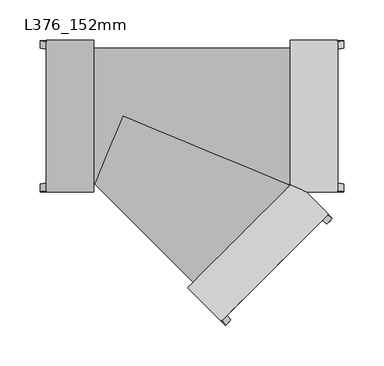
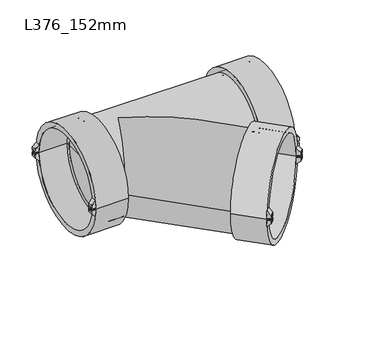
"""IFC4 building model written with IfcOpenShell, lengths in millimetres: pipe fitting geometry, Durapipe_PipeFitting_VulcatheneEnfusion_SingleWye_L37 : L376_152mm."""

from ifc_helpers import new_model, si_unit, point, frame, frame_2d, origin, place, context, project, spatial, polyline, circle_curve, ellipse_curve, trimmed, segment, composite_curve, outline, extrude, source, transform, mapped, element, save
from ifc_brep_helpers import plane_surface, cylinder_surface, revolved_surface, advanced_brep


def l376_152mm_07512c7d(model_context):
    return source(origin(), model_context, "Body", "SolidModel", [
        advanced_brep(
        [(252.2115642, -133.0202102, 3.8160007), (258.7876572, -126.4441172, 3.9121124), (258.5625186, -126.6692557, 9.9669854), (251.9599956, -133.2717788, 9.9669854), (252.9252079, -122.2656502, 17.0269854), (253.7671991, -121.423659, 3.9121124), (247.191106, -127.9997521, 3.8160007), (246.253293, -128.9375651, 17.0269854)],
        [
            (0, 1, circle_curve(frame((255.5130354, -129.718739, 2.0269854), z_axis=(-0.7071067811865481, 0.7071067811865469, 0.0), x_axis=(-0.7071067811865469, -0.7071067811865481, 0.0)), 5.0)),
            (1, 2, circle_curve(frame((192.6158872, -192.6158872, 2.0269854), z_axis=(0.7071067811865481, -0.7071067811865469, 0.0), x_axis=(-0.7071067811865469, -0.7071067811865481, 0.0)), 93.6)),
            (2, 3),
            (3, 0, circle_curve(frame((192.6158872, -192.6158872, 2.0269854), z_axis=(-0.7071067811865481, 0.7071067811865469, 0.0), x_axis=(-0.7071067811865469, -0.7071067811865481, 0.0)), 84.3)),
            (4, 5, circle_curve(frame((187.595429, -187.595429, 2.0269854), z_axis=(-0.7071067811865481, 0.7071067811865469, 0.0), x_axis=(-0.7071067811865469, -0.7071067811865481, 0.0)), 93.6)),
            (5, 6, circle_curve(frame((250.4925772, -124.6982809, 2.0269854), z_axis=(0.7071067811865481, -0.7071067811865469, 0.0), x_axis=(-0.7071067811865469, -0.7071067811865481, 0.0)), 5.0)),
            (6, 7, circle_curve(frame((187.595429, -187.595429, 2.0269854), z_axis=(0.7071067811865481, -0.7071067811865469, 0.0), x_axis=(-0.7071067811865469, -0.7071067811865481, 0.0)), 84.3)),
            (7, 4),
            (6, 0),
            (3, 7, ellipse_curve(frame((198.2621248, -198.2621248, 2.0269854), z_axis=(0.4985855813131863, -0.4985855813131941, 0.7091014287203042), x_axis=(-0.5014104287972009, 0.5014104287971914, 0.7051064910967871)), 119.5564089, 84.3)),
            (4, 2, ellipse_curve(frame((198.2621248, -198.2621248, 2.0269854), z_axis=(-0.4985855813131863, 0.4985855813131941, -0.7091014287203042), x_axis=(0.5014104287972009, -0.5014104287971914, -0.7051064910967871)), 132.745906, 93.6)),
            (1, 5),
        ],
        [
            plane_surface(frame((257.945666, -127.2861084, 17.0269854), z_axis=(0.7071067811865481, -0.7071067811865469, 0.0), x_axis=(-0.7071067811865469, -0.7071067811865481, 0.0))),
            plane_surface(frame((252.9252079, -122.2656502, 17.0269854), z_axis=(-0.7071067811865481, 0.7071067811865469, 0.0), x_axis=(0.7071067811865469, 0.7071067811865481, 0.0))),
            revolved_surface(polyline([(78.70619289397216, -197.92439620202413, 2.0269854), (198.5998533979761, -317.81805670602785, 2.0269854)]), (187.595429, -187.595429, 2.0269854), (-0.7071067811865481, 0.7071067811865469, 0.0)),
            cylinder_surface(frame((187.595429, -187.595429, 2.0269854), z_axis=(0.7071067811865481, -0.7071067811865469, 0.0), x_axis=(-0.7071067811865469, -0.7071067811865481, 0.0)), 93.6),
            revolved_surface(polyline([(251.9775014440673, -133.25427295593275, 2.0269854), (246.95704329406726, -128.23381480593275, 2.0269854)]), (250.4925772, -124.6982809, 2.0269854), (0.7071067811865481, -0.7071067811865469, 0.0)),
            plane_surface(frame((121.4102343, -253.7806238, 17.0269854), z_axis=(0.4985855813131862, -0.49858558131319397, 0.7091014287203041), x_axis=(0.7071067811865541, 0.7071067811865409, 0.0))),
        ],
        [
            (0, [[1, 2, 3, 4]]),
            (1, [[5, 6, 7, 8]]),
            (2, [[-7, 9, -4, 10]]),
            (3, [[-5, 11, -2, 12]]),
            (4, [[-1, -9, -6, -12]]),
            (5, [[-3, -11, -8, -10]]),
        ],
    ),
        advanced_brep(
        [(258.7876572, -126.4441172, 0.1418585), (252.2115642, -133.0202102, 0.2379702), (251.9599956, -133.2717788, -5.9130146), (258.5625186, -126.6692557, -5.9130146), (253.7671991, -121.423659, 0.1418585), (252.9252079, -122.2656502, -12.9730146), (246.253293, -128.9375651, -12.9730146), (247.191106, -127.9997521, 0.2379702)],
        [
            (0, 1, circle_curve(frame((255.5130354, -129.718739, 2.0269854), z_axis=(-0.7071067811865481, 0.7071067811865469, 0.0), x_axis=(-0.7071067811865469, -0.7071067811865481, 0.0)), 5.0)),
            (1, 2, circle_curve(frame((192.6158872, -192.6158872, 2.0269854), z_axis=(-0.7071067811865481, 0.7071067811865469, 0.0), x_axis=(-0.7071067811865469, -0.7071067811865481, 0.0)), 84.3)),
            (2, 3),
            (3, 0, circle_curve(frame((192.6158872, -192.6158872, 2.0269854), z_axis=(0.7071067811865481, -0.7071067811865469, 0.0), x_axis=(-0.7071067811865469, -0.7071067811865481, 0.0)), 93.6)),
            (4, 5, circle_curve(frame((187.595429, -187.595429, 2.0269854), z_axis=(-0.7071067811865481, 0.7071067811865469, 0.0), x_axis=(-0.7071067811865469, -0.7071067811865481, 0.0)), 93.6)),
            (5, 6),
            (6, 7, circle_curve(frame((187.595429, -187.595429, 2.0269854), z_axis=(0.7071067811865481, -0.7071067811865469, 0.0), x_axis=(-0.7071067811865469, -0.7071067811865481, 0.0)), 84.3)),
            (7, 4, circle_curve(frame((250.4925772, -124.6982809, 2.0269854), z_axis=(0.7071067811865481, -0.7071067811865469, 0.0), x_axis=(-0.7071067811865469, -0.7071067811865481, 0.0)), 5.0)),
            (6, 2, ellipse_curve(frame((198.2621248, -198.2621248, 2.0269854), z_axis=(0.49858558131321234, -0.4985855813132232, -0.7091014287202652), x_axis=(-0.5014104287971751, 0.5014104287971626, -0.7051064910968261)), 119.5564089, 84.3)),
            (1, 7),
            (4, 0),
            (3, 5, ellipse_curve(frame((198.2621248, -198.2621248, 2.0269854), z_axis=(-0.49858558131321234, 0.4985855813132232, 0.7091014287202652), x_axis=(0.5014104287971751, -0.5014104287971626, 0.7051064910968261)), 132.745906, 93.6)),
        ],
        [
            plane_surface(frame((257.945666, -127.2861084, 17.0269854), z_axis=(0.7071067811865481, -0.7071067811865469, 0.0), x_axis=(-0.7071067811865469, -0.7071067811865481, 0.0))),
            plane_surface(frame((252.9252079, -122.2656502, 17.0269854), z_axis=(-0.7071067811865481, 0.7071067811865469, 0.0), x_axis=(0.7071067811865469, 0.7071067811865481, 0.0))),
            revolved_surface(polyline([(78.70619289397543, -197.92439620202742, 2.0269854), (198.59985339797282, -317.8180567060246, 2.0269854)]), (187.595429, -187.595429, 2.0269854), (-0.7071067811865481, 0.7071067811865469, 0.0)),
            cylinder_surface(frame((187.595429, -187.595429, 2.0269854), z_axis=(0.7071067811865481, -0.7071067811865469, 0.0), x_axis=(-0.7071067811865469, -0.7071067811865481, 0.0)), 93.6),
            revolved_surface(polyline([(251.9775014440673, -133.25427295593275, 2.0269854), (246.95704329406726, -128.23381480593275, 2.0269854)]), (250.4925772, -124.6982809, 2.0269854), (0.7071067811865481, -0.7071067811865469, 0.0)),
            plane_surface(frame((126.4306925, -258.8010819, -5.9130146), z_axis=(0.49858558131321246, -0.49858558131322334, -0.7091014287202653), x_axis=(0.7071067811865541, 0.7071067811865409, 0.0))),
        ],
        [
            (0, [[1, 2, 3, 4]]),
            (1, [[5, 6, 7, 8]]),
            (2, [[-7, 9, -2, 10]]),
            (3, [[-5, 11, -4, 12]]),
            (4, [[-1, -11, -8, -10]]),
            (5, [[-3, -9, -6, -12]]),
        ],
    ),
        advanced_brep(
        [(126.4441172, -258.7876572, 3.9121124), (133.0202102, -252.2115642, 3.8160007), (133.2717788, -251.9599956, 9.9669854), (126.6692557, -258.5625186, 9.9669854), (121.423659, -253.7671991, 3.9121124), (122.2656502, -252.9252079, 17.0269854), (128.9375651, -246.253293, 17.0269854), (127.9997521, -247.191106, 3.8160007)],
        [
            (0, 1, circle_curve(frame((129.718739, -255.5130354, 2.0269854), z_axis=(-0.7071067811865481, 0.7071067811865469, 0.0), x_axis=(-0.7071067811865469, -0.7071067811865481, 0.0)), 5.0)),
            (1, 2, circle_curve(frame((192.6158872, -192.6158872, 2.0269854), z_axis=(-0.7071067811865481, 0.7071067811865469, 0.0), x_axis=(-0.7071067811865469, -0.7071067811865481, 0.0)), 84.3)),
            (2, 3),
            (3, 0, circle_curve(frame((192.6158872, -192.6158872, 2.0269854), z_axis=(0.7071067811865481, -0.7071067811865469, 0.0), x_axis=(-0.7071067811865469, -0.7071067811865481, 0.0)), 93.6)),
            (4, 5, circle_curve(frame((187.595429, -187.595429, 2.0269854), z_axis=(-0.7071067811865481, 0.7071067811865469, 0.0), x_axis=(-0.7071067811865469, -0.7071067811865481, 0.0)), 93.6)),
            (5, 6),
            (6, 7, circle_curve(frame((187.595429, -187.595429, 2.0269854), z_axis=(0.7071067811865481, -0.7071067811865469, 0.0), x_axis=(-0.7071067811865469, -0.7071067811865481, 0.0)), 84.3)),
            (7, 4, circle_curve(frame((124.6982809, -250.4925772, 2.0269854), z_axis=(0.7071067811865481, -0.7071067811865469, 0.0), x_axis=(-0.7071067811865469, -0.7071067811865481, 0.0)), 5.0)),
            (6, 2, ellipse_curve(frame((198.2621248, -198.2621248, 2.0269854), z_axis=(0.4985855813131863, -0.4985855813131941, 0.7091014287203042), x_axis=(-0.5014104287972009, 0.5014104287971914, 0.7051064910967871)), 119.5564089, 84.3)),
            (1, 7),
            (4, 0),
            (3, 5, ellipse_curve(frame((198.2621248, -198.2621248, 2.0269854), z_axis=(-0.4985855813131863, 0.4985855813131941, -0.7091014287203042), x_axis=(0.5014104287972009, -0.5014104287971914, -0.7051064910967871)), 132.745906, 93.6)),
        ],
        [
            plane_surface(frame((257.945666, -127.2861084, 17.0269854), z_axis=(0.7071067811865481, -0.7071067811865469, 0.0), x_axis=(-0.7071067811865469, -0.7071067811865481, 0.0))),
            plane_surface(frame((252.9252079, -122.2656502, 17.0269854), z_axis=(-0.7071067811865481, 0.7071067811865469, 0.0), x_axis=(0.7071067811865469, 0.7071067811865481, 0.0))),
            revolved_surface(polyline([(78.70619289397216, -197.92439620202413, 2.0269854), (198.5998533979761, -317.81805670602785, 2.0269854)]), (187.595429, -187.595429, 2.0269854), (-0.7071067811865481, 0.7071067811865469, 0.0)),
            cylinder_surface(frame((187.595429, -187.595429, 2.0269854), z_axis=(0.7071067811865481, -0.7071067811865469, 0.0), x_axis=(-0.7071067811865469, -0.7071067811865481, 0.0)), 93.6),
            revolved_surface(polyline([(126.18320514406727, -259.04856925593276, 2.0269854), (121.16274699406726, -254.02811110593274, 2.0269854)]), (124.6982809, -250.4925772, 2.0269854), (0.7071067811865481, -0.7071067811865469, 0.0)),
            plane_surface(frame((121.4102343, -253.7806238, 17.0269854), z_axis=(0.4985855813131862, -0.49858558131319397, 0.7091014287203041), x_axis=(0.7071067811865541, 0.7071067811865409, 0.0))),
        ],
        [
            (0, [[1, 2, 3, 4]]),
            (1, [[5, 6, 7, 8]]),
            (2, [[-7, 9, -2, 10]]),
            (3, [[-5, 11, -4, 12]]),
            (4, [[-1, -11, -8, -10]]),
            (5, [[-3, -9, -6, -12]]),
        ],
    ),
        advanced_brep(
        [(133.0202102, -252.2115642, 0.2379702), (126.4441172, -258.7876572, 0.1418585), (126.6692557, -258.5625186, -5.9130146), (133.2717788, -251.9599956, -5.9130146), (122.2656502, -252.9252079, -12.9730146), (121.423659, -253.7671991, 0.1418585), (127.9997521, -247.191106, 0.2379702), (128.9375651, -246.253293, -12.9730146)],
        [
            (0, 1, circle_curve(frame((129.718739, -255.5130354, 2.0269854), z_axis=(-0.7071067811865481, 0.7071067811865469, 0.0), x_axis=(-0.7071067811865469, -0.7071067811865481, 0.0)), 5.0)),
            (1, 2, circle_curve(frame((192.6158872, -192.6158872, 2.0269854), z_axis=(0.7071067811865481, -0.7071067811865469, 0.0), x_axis=(-0.7071067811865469, -0.7071067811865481, 0.0)), 93.6)),
            (2, 3),
            (3, 0, circle_curve(frame((192.6158872, -192.6158872, 2.0269854), z_axis=(-0.7071067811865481, 0.7071067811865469, 0.0), x_axis=(-0.7071067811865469, -0.7071067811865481, 0.0)), 84.3)),
            (4, 5, circle_curve(frame((187.595429, -187.595429, 2.0269854), z_axis=(-0.7071067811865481, 0.7071067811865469, 0.0), x_axis=(-0.7071067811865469, -0.7071067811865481, 0.0)), 93.6)),
            (5, 6, circle_curve(frame((124.6982809, -250.4925772, 2.0269854), z_axis=(0.7071067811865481, -0.7071067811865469, 0.0), x_axis=(-0.7071067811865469, -0.7071067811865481, 0.0)), 5.0)),
            (6, 7, circle_curve(frame((187.595429, -187.595429, 2.0269854), z_axis=(0.7071067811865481, -0.7071067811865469, 0.0), x_axis=(-0.7071067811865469, -0.7071067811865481, 0.0)), 84.3)),
            (7, 4),
            (6, 0),
            (3, 7, ellipse_curve(frame((198.2621248, -198.2621248, 2.0269854), z_axis=(0.49858558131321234, -0.4985855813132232, -0.7091014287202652), x_axis=(-0.5014104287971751, 0.5014104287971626, -0.7051064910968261)), 119.5564089, 84.3)),
            (4, 2, ellipse_curve(frame((198.2621248, -198.2621248, 2.0269854), z_axis=(-0.49858558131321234, 0.4985855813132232, 0.7091014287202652), x_axis=(0.5014104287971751, -0.5014104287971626, 0.7051064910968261)), 132.745906, 93.6)),
            (1, 5),
        ],
        [
            plane_surface(frame((257.945666, -127.2861084, 17.0269854), z_axis=(0.7071067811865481, -0.7071067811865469, 0.0), x_axis=(-0.7071067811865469, -0.7071067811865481, 0.0))),
            plane_surface(frame((252.9252079, -122.2656502, 17.0269854), z_axis=(-0.7071067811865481, 0.7071067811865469, 0.0), x_axis=(0.7071067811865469, 0.7071067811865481, 0.0))),
            revolved_surface(polyline([(78.70619289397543, -197.92439620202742, 2.0269854), (198.59985339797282, -317.8180567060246, 2.0269854)]), (187.595429, -187.595429, 2.0269854), (-0.7071067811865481, 0.7071067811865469, 0.0)),
            cylinder_surface(frame((187.595429, -187.595429, 2.0269854), z_axis=(0.7071067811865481, -0.7071067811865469, 0.0), x_axis=(-0.7071067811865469, -0.7071067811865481, 0.0)), 93.6),
            revolved_surface(polyline([(126.18320514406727, -259.04856925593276, 2.0269854), (121.16274699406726, -254.02811110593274, 2.0269854)]), (124.6982809, -250.4925772, 2.0269854), (0.7071067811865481, -0.7071067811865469, 0.0)),
            plane_surface(frame((126.4306925, -258.8010819, -5.9130146), z_axis=(0.49858558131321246, -0.49858558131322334, -0.7091014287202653), x_axis=(0.7071067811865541, 0.7071067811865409, 0.0))),
        ],
        [
            (0, [[1, 2, 3, 4]]),
            (1, [[5, 6, 7, 8]]),
            (2, [[-7, 9, -4, 10]]),
            (3, [[-5, 11, -2, 12]]),
            (4, [[-1, -9, -6, -12]]),
            (5, [[-3, -11, -8, -10]]),
        ],
    ),
        extrude(outline(composite_curve([segment(trimmed(circle_curve(frame_2d((0.0, -2.0000001)), 2.0), [point((0.0, -4.0))], [point((0.0, 0.0))], False, "CARTESIAN"), True, "CONTINUOUS"), segment(trimmed(circle_curve(frame_2d((0.0, -2.0000001)), 2.0), [point((0.0, 0.0))], [point((0.0, -4.0))], False, "CARTESIAN"), True, "CONTINUOUS")], self_intersect=False)), frame((254.0988218, -131.1329526, 2.0269854), z_axis=(-0.7071067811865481, 0.7071067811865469, 0.0), x_axis=(0.0, 0.0, -1.0)), (0.0, 0.0, 1.0), 7.1),
        extrude(outline(composite_curve([segment(trimmed(circle_curve(frame_2d((0.0, 175.9)), 2.0), [point((0.0, 173.8999999))], [point((0.0, 177.9))], False, "CARTESIAN"), True, "CONTINUOUS"), segment(trimmed(circle_curve(frame_2d((0.0, 175.9)), 2.0), [point((0.0, 177.9))], [point((0.0, 173.8999999))], False, "CARTESIAN"), True, "CONTINUOUS")], self_intersect=False)), frame((254.0988218, -131.1329526, 2.0269854), z_axis=(-0.7071067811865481, 0.7071067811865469, 0.0), x_axis=(0.0, 0.0, -1.0)), (0.0, 0.0, 1.0), 7.1),
        advanced_brep(
        [(206.0862714, -97.2625378, 2.0269854), (97.2625378, -206.0862714, 2.0269854), (92.1713689, -211.1774402, 2.0269854), (211.1774402, -92.1713689, 2.0269854), (200.5001278, -91.6763942, 2.0269854), (91.6763942, -200.5001278, 2.0269854), (212.3795217, -79.7970003, 2.0269854), (79.7970003, -212.3795217, 2.0269854), (253.8866898, -121.3041683, 2.0269854), (121.3041683, -253.8866898, 2.0269854), (247.0984647, -128.0923934, 2.0269854), (128.0923934, -247.0984647, 2.0269854)],
        [
            (0, 1, circle_curve(frame((151.6744046, -151.6744046, 2.0269854), z_axis=(-0.7071067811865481, 0.7071067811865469, 0.0), x_axis=(-0.7071067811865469, -0.7071067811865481, 0.0)), 76.95)),
            (1, 2),
            (2, 3, circle_curve(frame((151.6744046, -151.6744046, 2.0269854), z_axis=(0.7071067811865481, -0.7071067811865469, 0.0), x_axis=(-0.7071067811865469, -0.7071067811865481, 0.0)), 84.15)),
            (3, 0),
            (1, 0, circle_curve(frame((151.6744046, -151.6744046, 2.0269854), z_axis=(-0.7071067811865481, 0.7071067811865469, 0.0), x_axis=(-0.7071067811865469, -0.7071067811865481, 0.0)), 76.95)),
            (3, 2, circle_curve(frame((151.6744046, -151.6744046, 2.0269854), z_axis=(0.7071067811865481, -0.7071067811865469, 0.0), x_axis=(-0.7071067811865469, -0.7071067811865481, 0.0)), 84.15)),
            (4, 5, circle_curve(frame((146.088261, -146.088261, 2.0269854), z_axis=(-0.7071067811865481, 0.7071067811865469, 0.0), x_axis=(-0.7071067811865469, -0.7071067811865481, 0.0)), 76.95)),
            (5, 1),
            (0, 4),
            (5, 4, circle_curve(frame((146.088261, -146.088261, 2.0269854), z_axis=(-0.7071067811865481, 0.7071067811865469, 0.0), x_axis=(-0.7071067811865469, -0.7071067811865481, 0.0)), 76.95)),
            (6, 7, circle_curve(frame((146.088261, -146.088261, 2.0269854), z_axis=(-0.7071067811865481, 0.7071067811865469, 0.0), x_axis=(-0.7071067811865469, -0.7071067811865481, 0.0)), 93.75)),
            (7, 5),
            (4, 6),
            (7, 6, circle_curve(frame((146.088261, -146.088261, 2.0269854), z_axis=(-0.7071067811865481, 0.7071067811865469, 0.0), x_axis=(-0.7071067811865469, -0.7071067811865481, 0.0)), 93.75)),
            (8, 9, circle_curve(frame((187.595429, -187.595429, 2.0269854), z_axis=(-0.7071067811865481, 0.7071067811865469, 0.0), x_axis=(-0.7071067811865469, -0.7071067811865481, 0.0)), 93.75)),
            (9, 7),
            (6, 8),
            (9, 8, circle_curve(frame((187.595429, -187.595429, 2.0269854), z_axis=(-0.7071067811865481, 0.7071067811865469, 0.0), x_axis=(-0.7071067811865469, -0.7071067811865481, 0.0)), 93.75)),
            (10, 11, circle_curve(frame((187.595429, -187.595429, 2.0269854), z_axis=(-0.7071067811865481, 0.7071067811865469, 0.0), x_axis=(-0.7071067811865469, -0.7071067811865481, 0.0)), 84.15)),
            (11, 9),
            (8, 10),
            (11, 10, circle_curve(frame((187.595429, -187.595429, 2.0269854), z_axis=(-0.7071067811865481, 0.7071067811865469, 0.0), x_axis=(-0.7071067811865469, -0.7071067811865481, 0.0)), 84.15)),
            (2, 11),
            (10, 3),
        ],
        [
            plane_surface(frame((151.6744046, -151.6744046, 2.0269854), z_axis=(0.7071067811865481, -0.7071067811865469, 0.0), x_axis=(-0.7071067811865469, -0.7071067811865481, 0.0))),
            revolved_surface(polyline([(97.26253778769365, -206.0862714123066, 2.0269854), (91.6763941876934, -200.50012781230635, 2.0269854)]), (1965.2495903, -1965.2495903, 2.0269854), (0.7071067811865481, -0.7071067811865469, 0.0)),
            plane_surface(frame((146.088261, -146.088261, 2.0269854), z_axis=(-0.7071067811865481, 0.7071067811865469, 0.0), x_axis=(-0.7071067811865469, -0.7071067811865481, 0.0))),
            cylinder_surface(frame((1965.2495903, -1965.2495903, 2.0269854), z_axis=(0.7071067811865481, -0.7071067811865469, 0.0), x_axis=(-0.7071067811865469, -0.7071067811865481, 0.0)), 93.75),
            plane_surface(frame((187.595429, -187.595429, 2.0269854), z_axis=(0.7071067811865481, -0.7071067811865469, 0.0), x_axis=(-0.7071067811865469, -0.7071067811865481, 0.0))),
            revolved_surface(polyline([(128.09239341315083, -247.09846468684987, 2.0269854), (92.17136891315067, -211.1774401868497, 2.0269854)]), (1965.2495903, -1965.2495903, 2.0269854), (0.7071067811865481, -0.7071067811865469, 0.0)),
        ],
        [
            (0, [[1, 2, 3, 4]]),
            (0, [[5, -4, 6, -2]]),
            (1, [[7, 8, -1, 9]]),
            (1, [[10, -9, -5, -8]]),
            (2, [[11, 12, -7, 13]]),
            (2, [[14, -13, -10, -12]]),
            (3, [[15, 16, -11, 17]]),
            (3, [[18, -17, -14, -16]]),
            (4, [[19, 20, -15, 21]]),
            (4, [[22, -21, -18, -20]]),
            (5, [[-3, 23, -19, 24]]),
            (5, [[-6, -24, -22, -23]]),
        ],
    ),
        advanced_brep(
        [(-102.1, -84.2810146, 1.7890152), (-102.1, -93.5810146, 1.885127), (-102.1, -93.2626206, 7.94), (-102.1, -83.9252429, 7.94), (-95.0, -92.3902592, 15.0), (-95.0, -93.5810146, 1.885127), (-95.0, -84.2810146, 1.7890152), (-95.0, -82.9547467, 15.0)],
        [
            (0, 1, circle_curve(frame((-102.1, -88.95, 0.0), z_axis=(1.0, 0.0, 0.0), x_axis=(0.0, 1.0, 0.0)), 5.0)),
            (1, 2, circle_curve(frame((-102.1, 0.0, 0.0), z_axis=(-1.0, 0.0, 0.0), x_axis=(0.0, 1.0, 0.0)), 93.6)),
            (2, 3),
            (3, 0, circle_curve(frame((-102.1, 0.0, 0.0), z_axis=(1.0, 0.0, 0.0), x_axis=(0.0, 1.0, 0.0)), 84.3)),
            (4, 5, circle_curve(frame((-95.0, 0.0, 0.0), z_axis=(1.0, 0.0, 0.0), x_axis=(0.0, 1.0, 0.0)), 93.6)),
            (5, 6, circle_curve(frame((-95.0, -88.95, 0.0), z_axis=(-1.0, 0.0, 0.0), x_axis=(0.0, 1.0, 0.0)), 5.0)),
            (6, 7, circle_curve(frame((-95.0, 0.0, 0.0), z_axis=(-1.0, 0.0, 0.0), x_axis=(0.0, 1.0, 0.0)), 84.3)),
            (7, 4),
            (6, 0),
            (3, 7, ellipse_curve(frame((-110.0849858, 0.0, 0.0), z_axis=(-0.705106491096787, 0.0, 0.7091014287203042), x_axis=(0.7091014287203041, 0.0, 0.705106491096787)), 119.5564089, 84.3)),
            (4, 2, ellipse_curve(frame((-110.0849858, 0.0, 0.0), z_axis=(0.705106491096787, 0.0, -0.7091014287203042), x_axis=(-0.7091014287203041, 0.0, -0.705106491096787)), 132.745906, 93.6)),
            (1, 5),
        ],
        [
            plane_surface(frame((-102.1, -92.3902592, 15.0), z_axis=(-1.0, 0.0, 0.0), x_axis=(0.0, 1.0, 0.0))),
            plane_surface(frame((-95.0, -92.3902592, 15.0), z_axis=(1.0, 0.0, 0.0), x_axis=(0.0, -1.0, 0.0))),
            revolved_surface(polyline([(-25.307365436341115, 84.3, 0.0), (-194.86260616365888, 84.3, 0.0)]), (-95.0, 0.0, 0.0), (1.0, 0.0, 0.0)),
            cylinder_surface(frame((-95.0, 0.0, 0.0), z_axis=(-1.0, 0.0, 0.0), x_axis=(0.0, 1.0, 0.0)), 93.6),
            revolved_surface(polyline([(-102.1, -83.95, 0.0), (-95.0, -83.95, 0.0)]), (-95.0, -88.95, 0.0), (-1.0, 0.0, 0.0)),
            plane_surface(frame((-95.0, 93.6, 15.0), z_axis=(-0.705106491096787, 0.0, 0.7091014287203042), x_axis=(0.0, -1.0, 0.0))),
        ],
        [
            (0, [[1, 2, 3, 4]]),
            (1, [[5, 6, 7, 8]]),
            (2, [[-7, 9, -4, 10]]),
            (3, [[-5, 11, -2, 12]]),
            (4, [[-1, -9, -6, -12]]),
            (5, [[-3, -11, -8, -10]]),
        ],
    ),
        advanced_brep(
        [(-102.1, -93.5810146, -1.885127), (-102.1, -84.2810146, -1.7890152), (-102.1, -83.9252429, -7.94), (-102.1, -93.2626206, -7.94), (-95.0, -93.5810146, -1.885127), (-95.0, -92.3902592, -15.0), (-95.0, -82.9547467, -15.0), (-95.0, -84.2810146, -1.7890152)],
        [
            (0, 1, circle_curve(frame((-102.1, -88.95, 0.0), z_axis=(1.0, 0.0, 0.0), x_axis=(0.0, 1.0, 0.0)), 5.0)),
            (1, 2, circle_curve(frame((-102.1, 0.0, 0.0), z_axis=(1.0, 0.0, 0.0), x_axis=(0.0, 1.0, 0.0)), 84.3)),
            (2, 3),
            (3, 0, circle_curve(frame((-102.1, 0.0, 0.0), z_axis=(-1.0, 0.0, 0.0), x_axis=(0.0, 1.0, 0.0)), 93.6)),
            (4, 5, circle_curve(frame((-95.0, 0.0, 0.0), z_axis=(1.0, 0.0, 0.0), x_axis=(0.0, 1.0, 0.0)), 93.6)),
            (5, 6),
            (6, 7, circle_curve(frame((-95.0, 0.0, 0.0), z_axis=(-1.0, 0.0, 0.0), x_axis=(0.0, 1.0, 0.0)), 84.3)),
            (7, 4, circle_curve(frame((-95.0, -88.95, 0.0), z_axis=(-1.0, 0.0, 0.0), x_axis=(0.0, 1.0, 0.0)), 5.0)),
            (6, 2, ellipse_curve(frame((-110.0849858, 0.0, 0.0), z_axis=(-0.7051064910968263, 0.0, -0.7091014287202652), x_axis=(0.7091014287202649, 0.0, -0.7051064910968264)), 119.5564089, 84.3)),
            (1, 7),
            (4, 0),
            (3, 5, ellipse_curve(frame((-110.0849858, 0.0, 0.0), z_axis=(0.7051064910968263, 0.0, 0.7091014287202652), x_axis=(-0.7091014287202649, 0.0, 0.7051064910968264)), 132.745906, 93.6)),
        ],
        [
            plane_surface(frame((-102.1, -92.3902592, 15.0), z_axis=(-1.0, 0.0, 0.0), x_axis=(0.0, 1.0, 0.0))),
            plane_surface(frame((-95.0, -92.3902592, 15.0), z_axis=(1.0, 0.0, 0.0), x_axis=(0.0, -1.0, 0.0))),
            revolved_surface(polyline([(-25.307365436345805, 84.3, 0.0), (-194.8626061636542, 84.3, 0.0)]), (-95.0, 0.0, 0.0), (1.0, 0.0, 0.0)),
            cylinder_surface(frame((-95.0, 0.0, 0.0), z_axis=(-1.0, 0.0, 0.0), x_axis=(0.0, 1.0, 0.0)), 93.6),
            revolved_surface(polyline([(-102.1, -83.95, 0.0), (-95.0, -83.95, 0.0)]), (-95.0, -88.95, 0.0), (-1.0, 0.0, 0.0)),
            plane_surface(frame((-102.1, 93.6, -7.94), z_axis=(-0.7051064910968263, 0.0, -0.7091014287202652), x_axis=(0.0, -1.0, 0.0))),
        ],
        [
            (0, [[1, 2, 3, 4]]),
            (1, [[5, 6, 7, 8]]),
            (2, [[-7, 9, -2, 10]]),
            (3, [[-5, 11, -4, 12]]),
            (4, [[-1, -11, -8, -10]]),
            (5, [[-3, -9, -6, -12]]),
        ],
    ),
        advanced_brep(
        [(-102.1, 93.5810146, 1.885127), (-102.1, 84.2810146, 1.7890152), (-102.1, 83.9252429, 7.94), (-102.1, 93.2626206, 7.94), (-95.0, 93.5810146, 1.885127), (-95.0, 92.3902592, 15.0), (-95.0, 82.9547467, 15.0), (-95.0, 84.2810146, 1.7890152)],
        [
            (0, 1, circle_curve(frame((-102.1, 88.95, 0.0), z_axis=(1.0, 0.0, 0.0), x_axis=(0.0, 1.0, 0.0)), 5.0)),
            (1, 2, circle_curve(frame((-102.1, 0.0, 0.0), z_axis=(1.0, 0.0, 0.0), x_axis=(0.0, 1.0, 0.0)), 84.3)),
            (2, 3),
            (3, 0, circle_curve(frame((-102.1, 0.0, 0.0), z_axis=(-1.0, 0.0, 0.0), x_axis=(0.0, 1.0, 0.0)), 93.6)),
            (4, 5, circle_curve(frame((-95.0, 0.0, 0.0), z_axis=(1.0, 0.0, 0.0), x_axis=(0.0, 1.0, 0.0)), 93.6)),
            (5, 6),
            (6, 7, circle_curve(frame((-95.0, 0.0, 0.0), z_axis=(-1.0, 0.0, 0.0), x_axis=(0.0, 1.0, 0.0)), 84.3)),
            (7, 4, circle_curve(frame((-95.0, 88.95, 0.0), z_axis=(-1.0, 0.0, 0.0), x_axis=(0.0, 1.0, 0.0)), 5.0)),
            (6, 2, ellipse_curve(frame((-110.0849858, 0.0, 0.0), z_axis=(-0.705106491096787, 0.0, 0.7091014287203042), x_axis=(0.7091014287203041, 0.0, 0.705106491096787)), 119.5564089, 84.3)),
            (1, 7),
            (4, 0),
            (3, 5, ellipse_curve(frame((-110.0849858, 0.0, 0.0), z_axis=(0.705106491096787, 0.0, -0.7091014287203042), x_axis=(-0.7091014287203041, 0.0, -0.705106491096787)), 132.745906, 93.6)),
        ],
        [
            plane_surface(frame((-102.1, -92.3902592, 15.0), z_axis=(-1.0, 0.0, 0.0), x_axis=(0.0, 1.0, 0.0))),
            plane_surface(frame((-95.0, -92.3902592, 15.0), z_axis=(1.0, 0.0, 0.0), x_axis=(0.0, -1.0, 0.0))),
            revolved_surface(polyline([(-25.307365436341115, 84.3, 0.0), (-194.86260616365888, 84.3, 0.0)]), (-95.0, 0.0, 0.0), (1.0, 0.0, 0.0)),
            cylinder_surface(frame((-95.0, 0.0, 0.0), z_axis=(-1.0, 0.0, 0.0), x_axis=(0.0, 1.0, 0.0)), 93.6),
            revolved_surface(polyline([(-102.1, 93.95, 0.0), (-95.0, 93.95, 0.0)]), (-95.0, 88.95, 0.0), (-1.0, 0.0, 0.0)),
            plane_surface(frame((-95.0, 93.6, 15.0), z_axis=(-0.705106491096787, 0.0, 0.7091014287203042), x_axis=(0.0, -1.0, 0.0))),
        ],
        [
            (0, [[1, 2, 3, 4]]),
            (1, [[5, 6, 7, 8]]),
            (2, [[-7, 9, -2, 10]]),
            (3, [[-5, 11, -4, 12]]),
            (4, [[-1, -11, -8, -10]]),
            (5, [[-3, -9, -6, -12]]),
        ],
    ),
        advanced_brep(
        [(-102.1, 84.2810146, -1.7890152), (-102.1, 93.5810146, -1.885127), (-102.1, 93.2626206, -7.94), (-102.1, 83.9252429, -7.94), (-95.0, 92.3902592, -15.0), (-95.0, 93.5810146, -1.885127), (-95.0, 84.2810146, -1.7890152), (-95.0, 82.9547467, -15.0)],
        [
            (0, 1, circle_curve(frame((-102.1, 88.95, 0.0), z_axis=(1.0, 0.0, 0.0), x_axis=(0.0, 1.0, 0.0)), 5.0)),
            (1, 2, circle_curve(frame((-102.1, 0.0, 0.0), z_axis=(-1.0, 0.0, 0.0), x_axis=(0.0, 1.0, 0.0)), 93.6)),
            (2, 3),
            (3, 0, circle_curve(frame((-102.1, 0.0, 0.0), z_axis=(1.0, 0.0, 0.0), x_axis=(0.0, 1.0, 0.0)), 84.3)),
            (4, 5, circle_curve(frame((-95.0, 0.0, 0.0), z_axis=(1.0, 0.0, 0.0), x_axis=(0.0, 1.0, 0.0)), 93.6)),
            (5, 6, circle_curve(frame((-95.0, 88.95, 0.0), z_axis=(-1.0, 0.0, 0.0), x_axis=(0.0, 1.0, 0.0)), 5.0)),
            (6, 7, circle_curve(frame((-95.0, 0.0, 0.0), z_axis=(-1.0, 0.0, 0.0), x_axis=(0.0, 1.0, 0.0)), 84.3)),
            (7, 4),
            (6, 0),
            (3, 7, ellipse_curve(frame((-110.0849858, 0.0, 0.0), z_axis=(-0.7051064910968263, 0.0, -0.7091014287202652), x_axis=(0.7091014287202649, 0.0, -0.7051064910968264)), 119.5564089, 84.3)),
            (4, 2, ellipse_curve(frame((-110.0849858, 0.0, 0.0), z_axis=(0.7051064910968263, 0.0, 0.7091014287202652), x_axis=(-0.7091014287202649, 0.0, 0.7051064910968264)), 132.745906, 93.6)),
            (1, 5),
        ],
        [
            plane_surface(frame((-102.1, -92.3902592, 15.0), z_axis=(-1.0, 0.0, 0.0), x_axis=(0.0, 1.0, 0.0))),
            plane_surface(frame((-95.0, -92.3902592, 15.0), z_axis=(1.0, 0.0, 0.0), x_axis=(0.0, -1.0, 0.0))),
            revolved_surface(polyline([(-25.307365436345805, 84.3, 0.0), (-194.8626061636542, 84.3, 0.0)]), (-95.0, 0.0, 0.0), (1.0, 0.0, 0.0)),
            cylinder_surface(frame((-95.0, 0.0, 0.0), z_axis=(-1.0, 0.0, 0.0), x_axis=(0.0, 1.0, 0.0)), 93.6),
            revolved_surface(polyline([(-102.1, 93.95, 0.0), (-95.0, 93.95, 0.0)]), (-95.0, 88.95, 0.0), (-1.0, 0.0, 0.0)),
            plane_surface(frame((-102.1, 93.6, -7.94), z_axis=(-0.7051064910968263, 0.0, -0.7091014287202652), x_axis=(0.0, -1.0, 0.0))),
        ],
        [
            (0, [[1, 2, 3, 4]]),
            (1, [[5, 6, 7, 8]]),
            (2, [[-7, 9, -4, 10]]),
            (3, [[-5, 11, -2, 12]]),
            (4, [[-1, -9, -6, -12]]),
            (5, [[-3, -11, -8, -10]]),
        ],
    ),
        extrude(outline(composite_curve([segment(trimmed(circle_curve(frame_2d((-88.95, 0.0)), 2.0), [point((-90.95, 0.0))], [point((-86.95, 0.0))], False, "CARTESIAN"), True, "CONTINUOUS"), segment(trimmed(circle_curve(frame_2d((-88.95, 0.0)), 2.0), [point((-86.95, 0.0))], [point((-90.95, 0.0))], False, "CARTESIAN"), True, "CONTINUOUS")], self_intersect=False)), frame((-102.1, 0.0, 0.0), z_axis=(1.0, 0.0, 0.0), x_axis=(0.0, 1.0, 0.0)), (0.0, 0.0, 1.0), 7.1),
        extrude(outline(composite_curve([segment(trimmed(circle_curve(frame_2d((88.95, 0.0)), 2.0), [point((86.95, 0.0))], [point((90.95, 0.0))], False, "CARTESIAN"), True, "CONTINUOUS"), segment(trimmed(circle_curve(frame_2d((88.95, 0.0)), 2.0), [point((90.95, 0.0))], [point((86.95, 0.0))], False, "CARTESIAN"), True, "CONTINUOUS")], self_intersect=False)), frame((-102.1, 0.0, 0.0), z_axis=(1.0, 0.0, 0.0), x_axis=(0.0, 1.0, 0.0)), (0.0, 0.0, 1.0), 7.1),
        advanced_brep(
        [(-44.2, -76.95, 0.0), (-44.2, 76.95, 0.0), (-44.2, 84.15, 0.0), (-44.2, -84.15, 0.0), (-36.3, -76.95, 0.0), (-36.3, 76.95, 0.0), (-36.3, -93.75, 0.0), (-36.3, 93.75, 0.0), (-95.0, -93.75, 0.0), (-95.0, 93.75, 0.0), (-95.0, -84.15, 0.0), (-95.0, 84.15, 0.0)],
        [
            (0, 1, circle_curve(frame((-44.2, 0.0, 0.0), z_axis=(1.0, 0.0, 0.0), x_axis=(0.0, 1.0, 0.0)), 76.95)),
            (1, 2),
            (2, 3, circle_curve(frame((-44.2, 0.0, 0.0), z_axis=(-1.0, 0.0, 0.0), x_axis=(0.0, 1.0, 0.0)), 84.15)),
            (3, 0),
            (1, 0, circle_curve(frame((-44.2, 0.0, 0.0), z_axis=(1.0, 0.0, 0.0), x_axis=(0.0, 1.0, 0.0)), 76.95)),
            (3, 2, circle_curve(frame((-44.2, 0.0, 0.0), z_axis=(-1.0, 0.0, 0.0), x_axis=(0.0, 1.0, 0.0)), 84.15)),
            (4, 5, circle_curve(frame((-36.3, 0.0, 0.0), z_axis=(1.0, 0.0, 0.0), x_axis=(0.0, 1.0, 0.0)), 76.95)),
            (5, 1),
            (0, 4),
            (5, 4, circle_curve(frame((-36.3, 0.0, 0.0), z_axis=(1.0, 0.0, 0.0), x_axis=(0.0, 1.0, 0.0)), 76.95)),
            (6, 7, circle_curve(frame((-36.3, 0.0, 0.0), z_axis=(1.0, 0.0, 0.0), x_axis=(0.0, 1.0, 0.0)), 93.75)),
            (7, 5),
            (4, 6),
            (7, 6, circle_curve(frame((-36.3, 0.0, 0.0), z_axis=(1.0, 0.0, 0.0), x_axis=(0.0, 1.0, 0.0)), 93.75)),
            (8, 9, circle_curve(frame((-95.0, 0.0, 0.0), z_axis=(1.0, 0.0, 0.0), x_axis=(0.0, 1.0, 0.0)), 93.75)),
            (9, 7),
            (6, 8),
            (9, 8, circle_curve(frame((-95.0, 0.0, 0.0), z_axis=(1.0, 0.0, 0.0), x_axis=(0.0, 1.0, 0.0)), 93.75)),
            (10, 11, circle_curve(frame((-95.0, 0.0, 0.0), z_axis=(1.0, 0.0, 0.0), x_axis=(0.0, 1.0, 0.0)), 84.15)),
            (11, 9),
            (8, 10),
            (11, 10, circle_curve(frame((-95.0, 0.0, 0.0), z_axis=(1.0, 0.0, 0.0), x_axis=(0.0, 1.0, 0.0)), 84.15)),
            (2, 11),
            (10, 3),
        ],
        [
            plane_surface(frame((-44.2, 0.0, 0.0), z_axis=(-1.0, 0.0, 0.0), x_axis=(0.0, 1.0, 0.0))),
            revolved_surface(polyline([(-44.19999999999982, 76.95, 0.0), (-36.30000000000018, 76.95, 0.0)]), (-2608.9826241, 0.0, 0.0), (-1.0, 0.0, 0.0)),
            plane_surface(frame((-36.3, 0.0, 0.0), z_axis=(1.0, 0.0, 0.0), x_axis=(0.0, 1.0, 0.0))),
            cylinder_surface(frame((-2608.9826241, 0.0, 0.0), z_axis=(-1.0, 0.0, 0.0), x_axis=(0.0, 1.0, 0.0)), 93.75),
            plane_surface(frame((-95.0, 0.0, 0.0), z_axis=(-1.0, 0.0, 0.0), x_axis=(0.0, 1.0, 0.0))),
            revolved_surface(polyline([(-95.0, 84.15, 0.0), (-44.19999999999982, 84.15, 0.0)]), (-2608.9826241, 0.0, 0.0), (-1.0, 0.0, 0.0)),
        ],
        [
            (0, [[1, 2, 3, 4]]),
            (0, [[5, -4, 6, -2]]),
            (1, [[7, 8, -1, 9]]),
            (1, [[10, -9, -5, -8]]),
            (2, [[11, 12, -7, 13]]),
            (2, [[14, -13, -10, -12]]),
            (3, [[15, 16, -11, 17]]),
            (3, [[18, -17, -14, -16]]),
            (4, [[19, 20, -15, 21]]),
            (4, [[22, -21, -18, -20]]),
            (5, [[-3, 23, -19, 24]]),
            (5, [[-6, -24, -22, -23]]),
        ],
    ),
        advanced_brep(
        [(272.5, -84.2810146, -1.7890152), (272.5, -93.5810146, -1.885127), (272.5, -93.2626206, -7.94), (272.5, -83.9252429, -7.94), (265.4, -92.3902592, -15.0), (265.4, -93.5810146, -1.885127), (265.4, -84.2810146, -1.7890152), (265.4, -82.9547467, -15.0)],
        [
            (0, 1, circle_curve(frame((272.5, -88.95, 0.0), z_axis=(-1.0, 0.0, 0.0), x_axis=(0.0, 1.0, 0.0)), 5.0)),
            (1, 2, circle_curve(frame((272.5, 0.0, 0.0), z_axis=(1.0, 0.0, 0.0), x_axis=(0.0, 1.0, 0.0)), 93.6)),
            (2, 3),
            (3, 0, circle_curve(frame((272.5, 0.0, 0.0), z_axis=(-1.0, 0.0, 0.0), x_axis=(0.0, 1.0, 0.0)), 84.3)),
            (4, 5, circle_curve(frame((265.4, 0.0, 0.0), z_axis=(-1.0, 0.0, 0.0), x_axis=(0.0, 1.0, 0.0)), 93.6)),
            (5, 6, circle_curve(frame((265.4, -88.95, 0.0), z_axis=(1.0, 0.0, 0.0), x_axis=(0.0, 1.0, 0.0)), 5.0)),
            (6, 7, circle_curve(frame((265.4, 0.0, 0.0), z_axis=(1.0, 0.0, 0.0), x_axis=(0.0, 1.0, 0.0)), 84.3)),
            (7, 4),
            (6, 0),
            (3, 7, ellipse_curve(frame((280.4849858, 0.0, 0.0), z_axis=(0.705106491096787, 0.0, -0.7091014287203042), x_axis=(-0.7091014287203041, 0.0, -0.705106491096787)), 119.5564089, 84.3)),
            (4, 2, ellipse_curve(frame((280.4849858, 0.0, 0.0), z_axis=(-0.705106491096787, 0.0, 0.7091014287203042), x_axis=(0.7091014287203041, 0.0, 0.705106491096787)), 132.745906, 93.6)),
            (1, 5),
        ],
        [
            plane_surface(frame((272.5, -92.3902592, -15.0), z_axis=(1.0, 0.0, 0.0), x_axis=(0.0, 1.0, 0.0))),
            plane_surface(frame((265.4, -92.3902592, -15.0), z_axis=(-1.0, 0.0, 0.0), x_axis=(0.0, -1.0, 0.0))),
            revolved_surface(polyline([(195.70736543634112, 84.3, 0.0), (365.2626061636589, 84.3, 0.0)]), (265.4, 0.0, 0.0), (-1.0, 0.0, 0.0)),
            cylinder_surface(frame((265.4, 0.0, 0.0), z_axis=(1.0, 0.0, 0.0), x_axis=(0.0, 1.0, 0.0)), 93.6),
            revolved_surface(polyline([(272.5, -83.95, 0.0), (265.4, -83.95, 0.0)]), (265.4, -88.95, 0.0), (1.0, 0.0, 0.0)),
            plane_surface(frame((265.4, 93.6, -15.0), z_axis=(0.705106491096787, 0.0, -0.7091014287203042), x_axis=(0.0, -1.0, 0.0))),
        ],
        [
            (0, [[1, 2, 3, 4]]),
            (1, [[5, 6, 7, 8]]),
            (2, [[-7, 9, -4, 10]]),
            (3, [[-5, 11, -2, 12]]),
            (4, [[-1, -9, -6, -12]]),
            (5, [[-3, -11, -8, -10]]),
        ],
    ),
        advanced_brep(
        [(272.5, -93.5810146, 1.885127), (272.5, -84.2810146, 1.7890152), (272.5, -83.9252429, 7.94), (272.5, -93.2626206, 7.94), (265.4, -93.5810146, 1.885127), (265.4, -92.3902592, 15.0), (265.4, -82.9547467, 15.0), (265.4, -84.2810146, 1.7890152)],
        [
            (0, 1, circle_curve(frame((272.5, -88.95, 0.0), z_axis=(-1.0, 0.0, 0.0), x_axis=(0.0, 1.0, 0.0)), 5.0)),
            (1, 2, circle_curve(frame((272.5, 0.0, 0.0), z_axis=(-1.0, 0.0, 0.0), x_axis=(0.0, 1.0, 0.0)), 84.3)),
            (2, 3),
            (3, 0, circle_curve(frame((272.5, 0.0, 0.0), z_axis=(1.0, 0.0, 0.0), x_axis=(0.0, 1.0, 0.0)), 93.6)),
            (4, 5, circle_curve(frame((265.4, 0.0, 0.0), z_axis=(-1.0, 0.0, 0.0), x_axis=(0.0, 1.0, 0.0)), 93.6)),
            (5, 6),
            (6, 7, circle_curve(frame((265.4, 0.0, 0.0), z_axis=(1.0, 0.0, 0.0), x_axis=(0.0, 1.0, 0.0)), 84.3)),
            (7, 4, circle_curve(frame((265.4, -88.95, 0.0), z_axis=(1.0, 0.0, 0.0), x_axis=(0.0, 1.0, 0.0)), 5.0)),
            (6, 2, ellipse_curve(frame((280.4849858, 0.0, 0.0), z_axis=(0.7051064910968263, 0.0, 0.7091014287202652), x_axis=(-0.7091014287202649, 0.0, 0.7051064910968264)), 119.5564089, 84.3)),
            (1, 7),
            (4, 0),
            (3, 5, ellipse_curve(frame((280.4849858, 0.0, 0.0), z_axis=(-0.7051064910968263, 0.0, -0.7091014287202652), x_axis=(0.7091014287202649, 0.0, -0.7051064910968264)), 132.745906, 93.6)),
        ],
        [
            plane_surface(frame((272.5, -92.3902592, -15.0), z_axis=(1.0, 0.0, 0.0), x_axis=(0.0, 1.0, 0.0))),
            plane_surface(frame((265.4, -92.3902592, -15.0), z_axis=(-1.0, 0.0, 0.0), x_axis=(0.0, -1.0, 0.0))),
            revolved_surface(polyline([(195.7073654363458, 84.3, 0.0), (365.2626061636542, 84.3, 0.0)]), (265.4, 0.0, 0.0), (-1.0, 0.0, 0.0)),
            cylinder_surface(frame((265.4, 0.0, 0.0), z_axis=(1.0, 0.0, 0.0), x_axis=(0.0, 1.0, 0.0)), 93.6),
            revolved_surface(polyline([(272.5, -83.95, 0.0), (265.4, -83.95, 0.0)]), (265.4, -88.95, 0.0), (1.0, 0.0, 0.0)),
            plane_surface(frame((272.5, 93.6, 7.94), z_axis=(0.7051064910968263, 0.0, 0.7091014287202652), x_axis=(0.0, -1.0, 0.0))),
        ],
        [
            (0, [[1, 2, 3, 4]]),
            (1, [[5, 6, 7, 8]]),
            (2, [[-7, 9, -2, 10]]),
            (3, [[-5, 11, -4, 12]]),
            (4, [[-1, -11, -8, -10]]),
            (5, [[-3, -9, -6, -12]]),
        ],
    ),
        advanced_brep(
        [(272.5, 93.5810146, -1.885127), (272.5, 84.2810146, -1.7890152), (272.5, 83.9252429, -7.94), (272.5, 93.2626206, -7.94), (265.4, 93.5810146, -1.885127), (265.4, 92.3902592, -15.0), (265.4, 82.9547467, -15.0), (265.4, 84.2810146, -1.7890152)],
        [
            (0, 1, circle_curve(frame((272.5, 88.95, 0.0), z_axis=(-1.0, 0.0, 0.0), x_axis=(0.0, 1.0, 0.0)), 5.0)),
            (1, 2, circle_curve(frame((272.5, 0.0, 0.0), z_axis=(-1.0, 0.0, 0.0), x_axis=(0.0, 1.0, 0.0)), 84.3)),
            (2, 3),
            (3, 0, circle_curve(frame((272.5, 0.0, 0.0), z_axis=(1.0, 0.0, 0.0), x_axis=(0.0, 1.0, 0.0)), 93.6)),
            (4, 5, circle_curve(frame((265.4, 0.0, 0.0), z_axis=(-1.0, 0.0, 0.0), x_axis=(0.0, 1.0, 0.0)), 93.6)),
            (5, 6),
            (6, 7, circle_curve(frame((265.4, 0.0, 0.0), z_axis=(1.0, 0.0, 0.0), x_axis=(0.0, 1.0, 0.0)), 84.3)),
            (7, 4, circle_curve(frame((265.4, 88.95, 0.0), z_axis=(1.0, 0.0, 0.0), x_axis=(0.0, 1.0, 0.0)), 5.0)),
            (6, 2, ellipse_curve(frame((280.4849858, 0.0, 0.0), z_axis=(0.705106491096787, 0.0, -0.7091014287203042), x_axis=(-0.7091014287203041, 0.0, -0.705106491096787)), 119.5564089, 84.3)),
            (1, 7),
            (4, 0),
            (3, 5, ellipse_curve(frame((280.4849858, 0.0, 0.0), z_axis=(-0.705106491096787, 0.0, 0.7091014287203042), x_axis=(0.7091014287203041, 0.0, 0.705106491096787)), 132.745906, 93.6)),
        ],
        [
            plane_surface(frame((272.5, -92.3902592, -15.0), z_axis=(1.0, 0.0, 0.0), x_axis=(0.0, 1.0, 0.0))),
            plane_surface(frame((265.4, -92.3902592, -15.0), z_axis=(-1.0, 0.0, 0.0), x_axis=(0.0, -1.0, 0.0))),
            revolved_surface(polyline([(195.70736543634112, 84.3, 0.0), (365.2626061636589, 84.3, 0.0)]), (265.4, 0.0, 0.0), (-1.0, 0.0, 0.0)),
            cylinder_surface(frame((265.4, 0.0, 0.0), z_axis=(1.0, 0.0, 0.0), x_axis=(0.0, 1.0, 0.0)), 93.6),
            revolved_surface(polyline([(272.5, 93.95, 0.0), (265.4, 93.95, 0.0)]), (265.4, 88.95, 0.0), (1.0, 0.0, 0.0)),
            plane_surface(frame((265.4, 93.6, -15.0), z_axis=(0.705106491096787, 0.0, -0.7091014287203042), x_axis=(0.0, -1.0, 0.0))),
        ],
        [
            (0, [[1, 2, 3, 4]]),
            (1, [[5, 6, 7, 8]]),
            (2, [[-7, 9, -2, 10]]),
            (3, [[-5, 11, -4, 12]]),
            (4, [[-1, -11, -8, -10]]),
            (5, [[-3, -9, -6, -12]]),
        ],
    ),
        advanced_brep(
        [(272.5, 84.2810146, 1.7890152), (272.5, 93.5810146, 1.885127), (272.5, 93.2626206, 7.94), (272.5, 83.9252429, 7.94), (265.4, 92.3902592, 15.0), (265.4, 93.5810146, 1.885127), (265.4, 84.2810146, 1.7890152), (265.4, 82.9547467, 15.0)],
        [
            (0, 1, circle_curve(frame((272.5, 88.95, 0.0), z_axis=(-1.0, 0.0, 0.0), x_axis=(0.0, 1.0, 0.0)), 5.0)),
            (1, 2, circle_curve(frame((272.5, 0.0, 0.0), z_axis=(1.0, 0.0, 0.0), x_axis=(0.0, 1.0, 0.0)), 93.6)),
            (2, 3),
            (3, 0, circle_curve(frame((272.5, 0.0, 0.0), z_axis=(-1.0, 0.0, 0.0), x_axis=(0.0, 1.0, 0.0)), 84.3)),
            (4, 5, circle_curve(frame((265.4, 0.0, 0.0), z_axis=(-1.0, 0.0, 0.0), x_axis=(0.0, 1.0, 0.0)), 93.6)),
            (5, 6, circle_curve(frame((265.4, 88.95, 0.0), z_axis=(1.0, 0.0, 0.0), x_axis=(0.0, 1.0, 0.0)), 5.0)),
            (6, 7, circle_curve(frame((265.4, 0.0, 0.0), z_axis=(1.0, 0.0, 0.0), x_axis=(0.0, 1.0, 0.0)), 84.3)),
            (7, 4),
            (6, 0),
            (3, 7, ellipse_curve(frame((280.4849858, 0.0, 0.0), z_axis=(0.7051064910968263, 0.0, 0.7091014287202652), x_axis=(-0.7091014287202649, 0.0, 0.7051064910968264)), 119.5564089, 84.3)),
            (4, 2, ellipse_curve(frame((280.4849858, 0.0, 0.0), z_axis=(-0.7051064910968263, 0.0, -0.7091014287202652), x_axis=(0.7091014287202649, 0.0, -0.7051064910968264)), 132.745906, 93.6)),
            (1, 5),
        ],
        [
            plane_surface(frame((272.5, -92.3902592, -15.0), z_axis=(1.0, 0.0, 0.0), x_axis=(0.0, 1.0, 0.0))),
            plane_surface(frame((265.4, -92.3902592, -15.0), z_axis=(-1.0, 0.0, 0.0), x_axis=(0.0, -1.0, 0.0))),
            revolved_surface(polyline([(195.7073654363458, 84.3, 0.0), (365.2626061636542, 84.3, 0.0)]), (265.4, 0.0, 0.0), (-1.0, 0.0, 0.0)),
            cylinder_surface(frame((265.4, 0.0, 0.0), z_axis=(1.0, 0.0, 0.0), x_axis=(0.0, 1.0, 0.0)), 93.6),
            revolved_surface(polyline([(272.5, 93.95, 0.0), (265.4, 93.95, 0.0)]), (265.4, 88.95, 0.0), (1.0, 0.0, 0.0)),
            plane_surface(frame((272.5, 93.6, 7.94), z_axis=(0.7051064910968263, 0.0, 0.7091014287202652), x_axis=(0.0, -1.0, 0.0))),
        ],
        [
            (0, [[1, 2, 3, 4]]),
            (1, [[5, 6, 7, 8]]),
            (2, [[-7, 9, -4, 10]]),
            (3, [[-5, 11, -2, 12]]),
            (4, [[-1, -9, -6, -12]]),
            (5, [[-3, -11, -8, -10]]),
        ],
    ),
        extrude(outline(composite_curve([segment(trimmed(circle_curve(frame_2d((-88.95, 0.0)), 2.0), [point((-90.95, 0.0))], [point((-86.95, 0.0))], False, "CARTESIAN"), True, "CONTINUOUS"), segment(trimmed(circle_curve(frame_2d((-88.95, 0.0)), 2.0), [point((-86.95, 0.0))], [point((-90.95, 0.0))], False, "CARTESIAN"), True, "CONTINUOUS")], self_intersect=False)), frame((265.4, 0.0, 0.0), z_axis=(1.0, 0.0, 0.0), x_axis=(0.0, 1.0, 0.0)), (0.0, 0.0, 1.0), 7.1),
        extrude(outline(composite_curve([segment(trimmed(circle_curve(frame_2d((88.95, 0.0)), 2.0), [point((86.95, 0.0))], [point((90.95, 0.0))], False, "CARTESIAN"), True, "CONTINUOUS"), segment(trimmed(circle_curve(frame_2d((88.95, 0.0)), 2.0), [point((90.95, 0.0))], [point((86.95, 0.0))], False, "CARTESIAN"), True, "CONTINUOUS")], self_intersect=False)), frame((265.4, 0.0, 0.0), z_axis=(1.0, 0.0, 0.0), x_axis=(0.0, 1.0, 0.0)), (0.0, 0.0, 1.0), 7.1),
        advanced_brep(
        [(214.6, -76.95, 0.0), (214.6, 76.95, 0.0), (214.6, 84.15, 0.0), (214.6, -84.15, 0.0), (206.7, -76.95, 0.0), (206.7, 76.95, 0.0), (206.7, -93.75, 0.0), (206.7, 93.75, 0.0), (265.4, -93.75, 0.0), (265.4, 93.75, 0.0), (265.4, -84.15, 0.0), (265.4, 84.15, 0.0)],
        [
            (0, 1, circle_curve(frame((214.6, 0.0, 0.0), z_axis=(-1.0, 0.0, 0.0), x_axis=(0.0, 1.0, 0.0)), 76.95)),
            (1, 2),
            (2, 3, circle_curve(frame((214.6, 0.0, 0.0), z_axis=(1.0, 0.0, 0.0), x_axis=(0.0, 1.0, 0.0)), 84.15)),
            (3, 0),
            (1, 0, circle_curve(frame((214.6, 0.0, 0.0), z_axis=(-1.0, 0.0, 0.0), x_axis=(0.0, 1.0, 0.0)), 76.95)),
            (3, 2, circle_curve(frame((214.6, 0.0, 0.0), z_axis=(1.0, 0.0, 0.0), x_axis=(0.0, 1.0, 0.0)), 84.15)),
            (4, 5, circle_curve(frame((206.7, 0.0, 0.0), z_axis=(-1.0, 0.0, 0.0), x_axis=(0.0, 1.0, 0.0)), 76.95)),
            (5, 1),
            (0, 4),
            (5, 4, circle_curve(frame((206.7, 0.0, 0.0), z_axis=(-1.0, 0.0, 0.0), x_axis=(0.0, 1.0, 0.0)), 76.95)),
            (6, 7, circle_curve(frame((206.7, 0.0, 0.0), z_axis=(-1.0, 0.0, 0.0), x_axis=(0.0, 1.0, 0.0)), 93.75)),
            (7, 5),
            (4, 6),
            (7, 6, circle_curve(frame((206.7, 0.0, 0.0), z_axis=(-1.0, 0.0, 0.0), x_axis=(0.0, 1.0, 0.0)), 93.75)),
            (8, 9, circle_curve(frame((265.4, 0.0, 0.0), z_axis=(-1.0, 0.0, 0.0), x_axis=(0.0, 1.0, 0.0)), 93.75)),
            (9, 7),
            (6, 8),
            (9, 8, circle_curve(frame((265.4, 0.0, 0.0), z_axis=(-1.0, 0.0, 0.0), x_axis=(0.0, 1.0, 0.0)), 93.75)),
            (10, 11, circle_curve(frame((265.4, 0.0, 0.0), z_axis=(-1.0, 0.0, 0.0), x_axis=(0.0, 1.0, 0.0)), 84.15)),
            (11, 9),
            (8, 10),
            (11, 10, circle_curve(frame((265.4, 0.0, 0.0), z_axis=(-1.0, 0.0, 0.0), x_axis=(0.0, 1.0, 0.0)), 84.15)),
            (2, 11),
            (10, 3),
        ],
        [
            plane_surface(frame((214.6, 0.0, 0.0), z_axis=(1.0, 0.0, 0.0), x_axis=(0.0, 1.0, 0.0))),
            revolved_surface(polyline([(214.5999999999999, 76.95, 0.0), (206.69999999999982, 76.95, 0.0)]), (2779.3826241, 0.0, 0.0), (1.0, 0.0, 0.0)),
            plane_surface(frame((206.7, 0.0, 0.0), z_axis=(-1.0, 0.0, 0.0), x_axis=(0.0, 1.0, 0.0))),
            cylinder_surface(frame((2779.3826241, 0.0, 0.0), z_axis=(1.0, 0.0, 0.0), x_axis=(0.0, 1.0, 0.0)), 93.75),
            plane_surface(frame((265.4, 0.0, 0.0), z_axis=(1.0, 0.0, 0.0), x_axis=(0.0, 1.0, 0.0))),
            revolved_surface(polyline([(265.4000000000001, 84.15, 0.0), (214.5999999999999, 84.15, 0.0)]), (2779.3826241, 0.0, 0.0), (1.0, 0.0, 0.0)),
        ],
        [
            (0, [[1, 2, 3, 4]]),
            (0, [[5, -4, 6, -2]]),
            (1, [[7, 8, -1, 9]]),
            (1, [[10, -9, -5, -8]]),
            (2, [[11, 12, -7, 13]]),
            (2, [[14, -13, -10, -12]]),
            (3, [[15, 16, -11, 17]]),
            (3, [[18, -17, -14, -16]]),
            (4, [[19, 20, -15, 21]]),
            (4, [[22, -21, -18, -20]]),
            (5, [[-3, 23, -19, 24]]),
            (5, [[-6, -24, -22, -23]]),
        ],
    ),
        advanced_brep(
        [(-59.5030356, -59.5030356, 0.0), (-44.2, -44.2, 56.3377538), (-44.2, -44.2, 0.0), (-44.2, -44.2, -56.3377538), (92.1713689, -211.1774402, 0.0), (211.1774402, -92.1713689, 0.0), (-44.2, -74.8060713, 0.0), (203.1560713, -84.15, 0.0), (0.0, 0.0, 84.15), (-34.8560713, -84.15, 0.0), (0.0, 0.0, -84.15), (214.6, -84.15, 0.0), (214.6, 84.15, 0.0), (214.6, 0.0, 0.0), (-44.2, -84.15, 0.0), (-44.2, 84.15, 0.0), (-44.2, 0.0, 0.0)],
        [
            (0, 1, circle_curve(frame((0.0, 0.0, 0.0), z_axis=(-0.7071067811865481, 0.7071067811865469, 0.0), x_axis=(0.7071067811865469, 0.7071067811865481, 0.0)), 84.15)),
            (1, 2),
            (2, 3),
            (3, 0, circle_curve(frame((0.0, 0.0, 0.0), z_axis=(-0.7071067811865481, 0.7071067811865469, 0.0), x_axis=(0.7071067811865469, 0.7071067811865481, 0.0)), 84.15)),
            (4, 5, circle_curve(frame((151.6744046, -151.6744046, 0.0), z_axis=(0.7071067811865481, -0.7071067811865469, 0.0), x_axis=(0.7071067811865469, 0.7071067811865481, 0.0)), 84.15)),
            (5, 4, circle_curve(frame((151.6744046, -151.6744046, 0.0), z_axis=(0.7071067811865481, -0.7071067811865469, 0.0), x_axis=(0.7071067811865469, 0.7071067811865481, 0.0)), 84.15)),
            (0, 6),
            (6, 1, ellipse_curve(frame((-44.2, 44.2, 0.0), z_axis=(-1.0, 0.0, 0.0), x_axis=(0.0, 1.0, 0.0)), 119.0060713, 84.15)),
            (5, 7),
            (7, 8, ellipse_curve(frame((0.0, 0.0, 0.0), z_axis=(-0.3826834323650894, -0.923879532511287, 0.0), x_axis=(-0.923879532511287, 0.38268343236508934, 0.0)), 219.894547, 84.15)),
            (8, 9, ellipse_curve(frame((0.0, 0.0, 0.0), z_axis=(0.923879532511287, -0.3826834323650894, 0.0), x_axis=(0.38268343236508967, 0.9238795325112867, 0.0)), 91.0833037, 84.15)),
            (9, 4),
            (3, 6, ellipse_curve(frame((-44.2, 44.2, 0.0), z_axis=(-1.0, 0.0, 0.0), x_axis=(0.0, 1.0, 0.0)), 119.0060713, 84.15)),
            (9, 10, ellipse_curve(frame((0.0, 0.0, 0.0), z_axis=(0.923879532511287, -0.3826834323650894, 0.0), x_axis=(0.38268343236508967, 0.9238795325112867, 0.0)), 91.0833037, 84.15)),
            (10, 7, ellipse_curve(frame((0.0, 0.0, 0.0), z_axis=(-0.3826834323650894, -0.923879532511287, 0.0), x_axis=(-0.923879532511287, 0.38268343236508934, 0.0)), 219.894547, 84.15)),
            (11, 12, circle_curve(frame((214.6, 0.0, 0.0), z_axis=(1.0, 0.0, 0.0), x_axis=(0.0, 1.0, 0.0)), 84.15)),
            (12, 13),
            (13, 11),
            (12, 11, circle_curve(frame((214.6, 0.0, 0.0), z_axis=(1.0, 0.0, 0.0), x_axis=(0.0, 1.0, 0.0)), 84.15)),
            (11, 7),
            (9, 14),
            (14, 15, circle_curve(frame((-44.2, 0.0, 0.0), z_axis=(1.0, 0.0, 0.0), x_axis=(0.0, 1.0, 0.0)), 84.15)),
            (15, 12),
            (15, 14, circle_curve(frame((-44.2, 0.0, 0.0), z_axis=(1.0, 0.0, 0.0), x_axis=(0.0, 1.0, 0.0)), 84.15)),
            (14, 6),
            (2, 16),
            (16, 15),
        ],
        [
            plane_surface(frame((0.0, 0.0, 0.0), z_axis=(-0.7071067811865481, 0.7071067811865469, 0.0), x_axis=(0.0, 0.0, 1.0))),
            plane_surface(frame((151.6744046, -151.6744046, 0.0), z_axis=(0.7071067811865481, -0.7071067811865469, 0.0), x_axis=(0.0, 0.0, 1.0))),
            cylinder_surface(frame((0.0, 0.0, 0.0), z_axis=(-0.7071067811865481, 0.7071067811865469, 0.0), x_axis=(0.7071067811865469, 0.7071067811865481, 0.0)), 84.15),
            plane_surface(frame((214.6, 0.0, 0.0), z_axis=(1.0, 0.0, 0.0), x_axis=(0.0, 1.0, 0.0))),
            cylinder_surface(frame((-135.0, 0.0, 0.0), z_axis=(-1.0, 0.0, 0.0), x_axis=(0.0, 1.0, 0.0)), 84.15),
            plane_surface(frame((-44.2, 0.0, 0.0), z_axis=(-1.0, 0.0, 0.0), x_axis=(0.0, 1.0, 0.0))),
        ],
        [
            (0, [[1, 2, 3, 4]]),
            (1, [[5, 6]]),
            (2, [[-1, 7, 8]]),
            (2, [[-6, 9, 10, 11, 12]]),
            (2, [[-4, 13, -7]]),
            (2, [[-5, -12, 14, 15, -9]]),
            (3, [[16, 17, 18]]),
            (3, [[-17, 19, -18]]),
            (4, [[-16, 20, -15, -14, 21, 22, 23]]),
            (4, [[-19, -23, 24, -21, -11, -10, -20]]),
            (5, [[-22, 25, -13, -3, 26, 27]]),
            (5, [[-24, -27, -26, -2, -8, -25]]),
        ],
    ),
    ])


if __name__ == "__main__":
    model = new_model("IFC4")
    model_context = context("Model", 3, world=origin())
    ifc_project = project(units=[si_unit("LENGTHUNIT", "METRE", prefix="MILLI")], contexts=[model_context])
    site = spatial("IfcSite", under=ifc_project)
    building = spatial("IfcBuilding", under=site)
    placement = place(None, origin())
    l376_152mm_shape = l376_152mm_07512c7d(model_context)
    element("IfcPipeFitting", 1, ObjectType="Durapipe_PipeFitting_VulcatheneEnfusion_SingleWye_L37 : L376_152mm", at=placement, inside=building, context=model_context, shape_type="MappedRepresentation", body=[
        mapped(l376_152mm_shape, transform((0.0, 0.0, 0.0), x_axis=(1.0, 0.0, 0.0), y_axis=(0.0, 1.0, 0.0), z_axis=(0.0, 0.0, 1.0))),
    ])
    save(model, "model.ifc")
